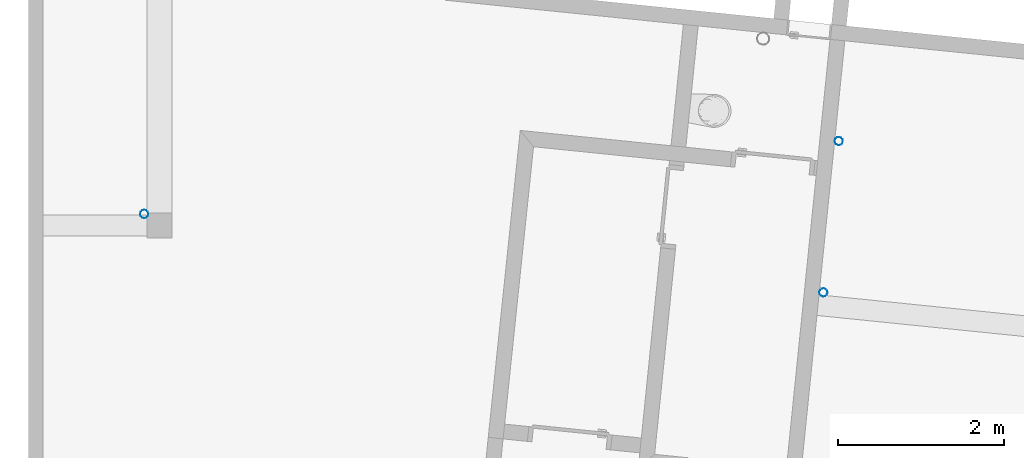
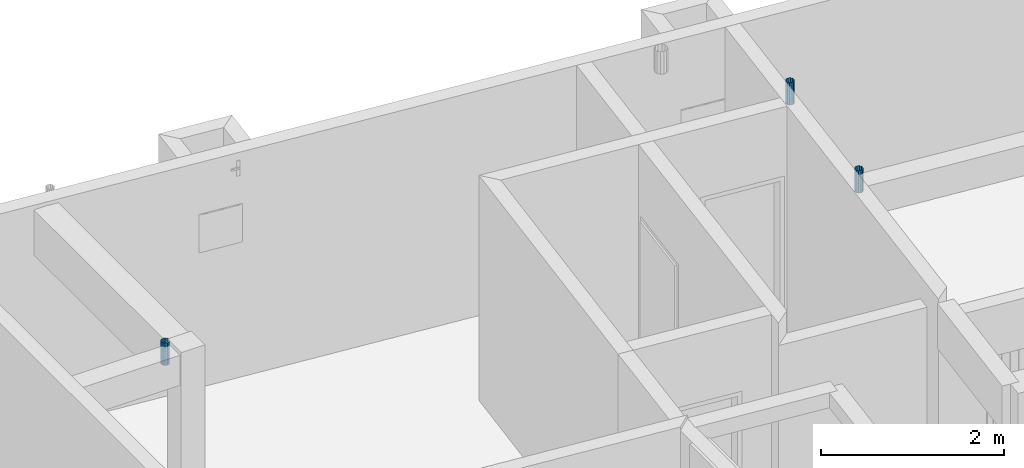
# One storey, part 29 of 41: 3 discrete accessories.
"""IFC2X3 building model written with IfcOpenShell, lengths in millimetres."""

from ifc_helpers import new_model, entity, si_unit, converted_unit, derived_unit, money_unit, direction, frame, origin_with_axes, place, context, subcontext, project, spatial, open_shell, surface_model, source, transform, mapped, type_object, element, save


model = new_model("IFC2X3")

# Units and contexts
model_context = context("Model", 3, precision=0.01, world=origin_with_axes(), true_north=direction((0.0, 1.0)))
body_context = subcontext(model_context, "Body", "Model", "MODEL_VIEW")
ifc_project = project(units=[si_unit("LENGTHUNIT", "METRE", prefix="MILLI"), si_unit("AREAUNIT", "SQUARE_METRE"), si_unit("VOLUMEUNIT", "CUBIC_METRE"), converted_unit("PLANEANGLEUNIT", "DEGREE", entity("IfcPlaneAngleMeasure", 0.0174532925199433), si_unit("PLANEANGLEUNIT", "RADIAN"), dimensions=[0, 0, 0, 0, 0, 0, 0]), money_unit("USD"), converted_unit("TIMEUNIT", "Year", entity("IfcTimeMeasure", 31557600.0), si_unit("TIMEUNIT", "SECOND"), dimensions=[0, 0, 1, 0, 0, 0, 0]), si_unit("MASSUNIT", "GRAM", prefix="KILO"), si_unit("THERMODYNAMICTEMPERATUREUNIT", "DEGREE_CELSIUS"), si_unit("LUMINOUSINTENSITYUNIT", "LUMEN"), si_unit("ENERGYUNIT", "JOULE", prefix="MEGA"), derived_unit("THERMALCONDUCTANCEUNIT", [(si_unit("POWERUNIT", "WATT"), 1), (si_unit("LENGTHUNIT", "METRE"), -1), (si_unit("THERMODYNAMICTEMPERATUREUNIT", "KELVIN"), -1)]), derived_unit("SPECIFICHEATCAPACITYUNIT", [(si_unit("ENERGYUNIT", "JOULE"), 1), (si_unit("MASSUNIT", "GRAM", prefix="KILO"), -1), (si_unit("THERMODYNAMICTEMPERATUREUNIT", "KELVIN"), -1)]), derived_unit("MASSDENSITYUNIT", [(si_unit("MASSUNIT", "GRAM", prefix="KILO"), 1), (si_unit("VOLUMEUNIT", "CUBIC_METRE"), -1)])], contexts=[model_context])

# Site, building, storey
site_placement = place(None, origin_with_axes())
site = spatial("IfcSite", under=ifc_project, at=site_placement, Name="Site", CompositionType="ELEMENT")
building_placement = place(site_placement, origin_with_axes())
building = spatial("IfcBuilding", under=site, at=building_placement, Name="Bâtiment", CompositionType="ELEMENT")
storey_placement = place(building_placement, origin_with_axes())
storey = spatial("IfcBuildingStorey", under=building, at=storey_placement, Name="sousol", CompositionType="ELEMENT", Elevation=0.0)

# Discrete accessories
discrete_accessory_type = type_object("IfcDiscreteAccessoryType", Name="Tuyau descente 27")
shared_shape = source(origin_with_axes(), body_context, "Body", "SurfaceModel", [
    surface_model("IfcShellBasedSurfaceModel", [(-50.0, 0.0, 300.0), (-50.0, 0.0, 0.0), (-43.30127018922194, -25.0, 0.0), (-43.30127018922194, -25.0, 300.0), (-43.30127018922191, 25.00000000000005, 300.0), (-43.30127018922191, 25.00000000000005, 0.0), (-25.00000000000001, -43.30127018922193, 0.0), (-25.00000000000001, -43.30127018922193, 300.0), (-24.99999999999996, 43.30127018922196, 300.0), (-24.99999999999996, 43.30127018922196, 0.0), (0.0, -50.0, 0.0), (0.0, -50.0, 300.0), (0.0, 50.0, 300.0), (0.0, 50.0, 0.0), (24.99999999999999, -43.30127018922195, 0.0), (24.99999999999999, -43.30127018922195, 300.0), (25.00000000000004, 43.30127018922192, 300.0), (25.00000000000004, 43.30127018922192, 0.0), (43.30127018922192, -25.00000000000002, 0.0), (43.30127018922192, -25.00000000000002, 300.0), (43.30127018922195, 24.99999999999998, 300.0), (43.30127018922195, 24.99999999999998, 0.0), (50.0, 0.0, 0.0), (50.0, 0.0, 300.0)], [open_shell([[[0, 1, 2, 3]], [[4, 5, 1, 0]], [[3, 2, 6, 7]], [[8, 9, 5, 4]], [[7, 6, 10, 11]], [[12, 13, 9, 8]], [[11, 10, 14, 15]], [[16, 17, 13, 12]], [[15, 14, 18, 19]], [[20, 21, 17, 16]], [[19, 18, 22, 23]], [[23, 22, 21, 20]]])]),
])
for number, where, z_axis, x_axis, name in (
    (1, (2226236.064728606, -608064.5569655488, 2700.0), (0.0, 0.0, 1.0), (-0.9948759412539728, 0.1011032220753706, 0.0), "Obj.-318"),
    (2, (2218034.158908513, -607117.3879007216, 2700.0), (0.0, 0.0, 1.0), (-1.0, 0.0, 0.0), "Obj.-318"),
    (3, (2226421.612192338, -606237.1895906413, 2700.0), (0.0, 0.0, 1.0), (-0.9948759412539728, 0.1011032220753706, 0.0), "Obj.-318"),
):
    element("IfcDiscreteAccessory", number, at=place(storey_placement, frame(where, z_axis=z_axis, x_axis=x_axis)), inside=storey, type_object=discrete_accessory_type, Name=name, context=body_context, shape_type="MappedRepresentation", body=[
        mapped(shared_shape, transform((0.0, 0.0, 0.0))),
    ])

save(model, "model.ifc")
